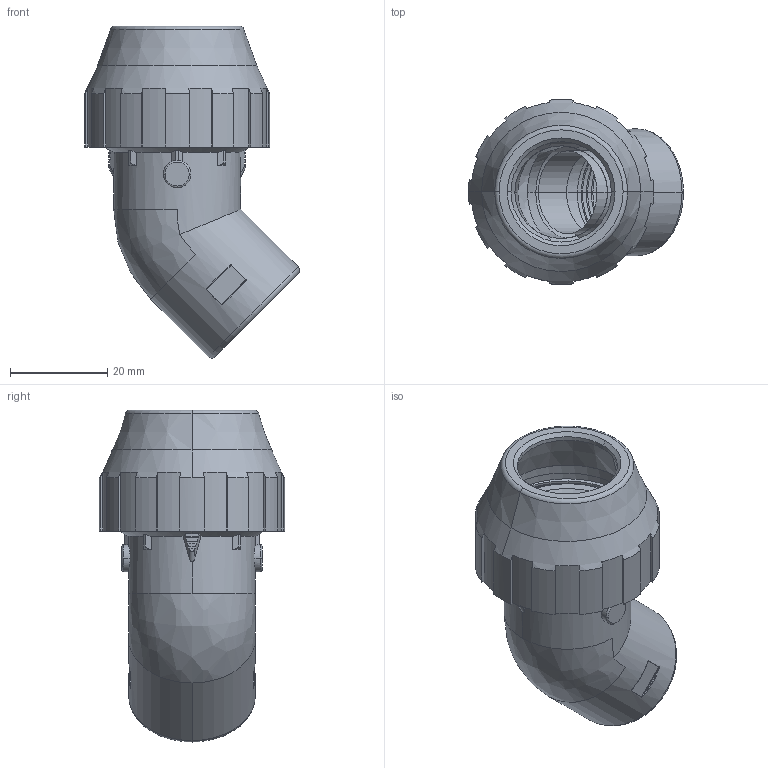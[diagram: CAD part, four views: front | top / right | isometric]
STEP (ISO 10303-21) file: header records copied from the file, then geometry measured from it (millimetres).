
FILE_DESCRIPTION (( 'STEP AP214' ), '1' );
FILE_NAME ('QLGO45FAL020048.STEP', '2021-05-19T09:55:36', ( '' ), ( '' ), 'SwSTEP 2.0', 'SolidWorks 2021', '' );
FILE_SCHEMA (( 'AUTOMOTIVE_DESIGN' ));
Length unit declared in the file: millimetre
Products named in the file (1): QLGO45FAL020048
Bounding box: 44.1 x 37.96 x 68.11 mm (x, y, z)
Surface area: 13026.7 mm2 (no closed solid volume)
Topology: 0 solids, 4 shells, 211 faces, 628 edges, 409 vertices
Faces by surface type: cylinder 101, plane 65, bspline 17, torus 14, cone 14
Entity records: 12230 total; most frequent: CARTESIAN_POINT 4668, ORIENTED_EDGE 1145, DIRECTION 1034, EDGE_CURVE 628, VERTEX_POINT 409, AXIS2_PLACEMENT_3D 395, LINE 244, VECTOR 244
